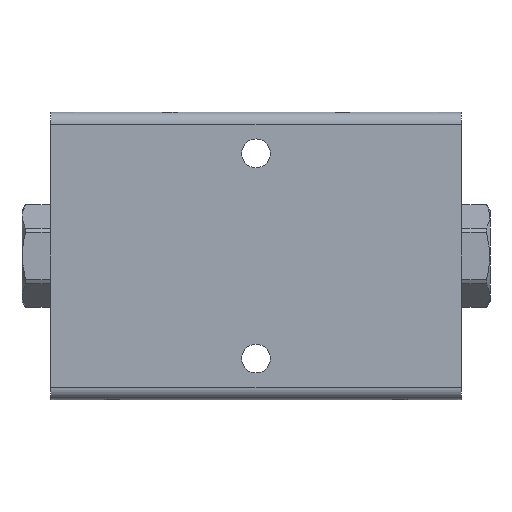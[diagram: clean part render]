
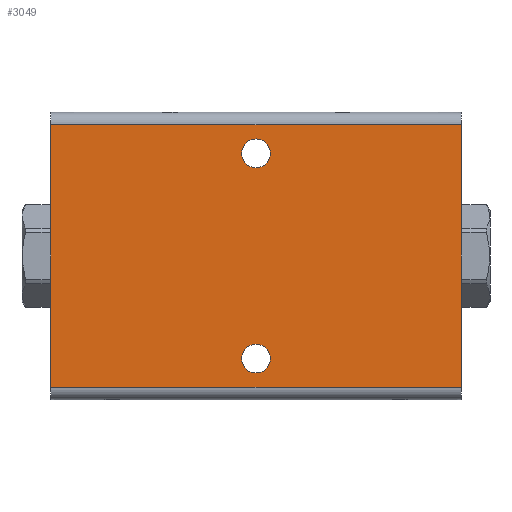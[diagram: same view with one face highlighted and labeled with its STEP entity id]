
A CAD part, front view. The second image highlights one B-rep face of the part: STEP entity #3049.
In plain terms, the highlighted planar face has unit normal (0, -1, 0).
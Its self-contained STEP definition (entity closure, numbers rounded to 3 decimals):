
#38 = EDGE_CURVE ( 'NONE', #566, #773, #1972, .T. ) ;
#83 = DIRECTION ( 'NONE',  ( 0., 0., -1. ) ) ;
#121 = ORIENTED_EDGE ( 'NONE', *, *, #948, .T. ) ;
#123 = ORIENTED_EDGE ( 'NONE', *, *, #2149, .T. ) ;
#128 = ORIENTED_EDGE ( 'NONE', *, *, #38, .T. ) ;
#168 = VECTOR ( 'NONE', #492, 1000. ) ;
#190 = AXIS2_PLACEMENT_3D ( 'NONE', #1832, #2601, #2333 ) ;
#256 = DIRECTION ( 'NONE',  ( 0., 0., 1. ) ) ;
#262 = CIRCLE ( 'NONE', #1763, 3.5 ) ;
#301 = DIRECTION ( 'NONE',  ( 0., 1., 0. ) ) ;
#361 = EDGE_LOOP ( 'NONE', ( #896, #121 ) ) ;
#404 = DIRECTION ( 'NONE',  ( 0., 0., 1. ) ) ;
#438 = AXIS2_PLACEMENT_3D ( 'NONE', #3026, #1981, #3234 ) ;
#485 = ORIENTED_EDGE ( 'NONE', *, *, #906, .T. ) ;
#492 = DIRECTION ( 'NONE',  ( 1., 0., 0. ) ) ;
#556 = LINE ( 'NONE', #2588, #1403 ) ;
#566 = VERTEX_POINT ( 'NONE', #1345 ) ;
#607 = VERTEX_POINT ( 'NONE', #2645 ) ;
#773 = VERTEX_POINT ( 'NONE', #2178 ) ;
#896 = ORIENTED_EDGE ( 'NONE', *, *, #2411, .T. ) ;
#906 = EDGE_CURVE ( 'NONE', #773, #566, #2081, .T. ) ;
#948 = EDGE_CURVE ( 'NONE', #958, #1833, #262, .T. ) ;
#958 = VERTEX_POINT ( 'NONE', #1511 ) ;
#1101 = LINE ( 'NONE', #1888, #1414 ) ;
#1124 = DIRECTION ( 'NONE',  ( -1., 0., 0. ) ) ;
#1177 = ORIENTED_EDGE ( 'NONE', *, *, #1808, .T. ) ;
#1218 = DIRECTION ( 'NONE',  ( 0., 1., 0. ) ) ;
#1219 = ORIENTED_EDGE ( 'NONE', *, *, #2170, .F. ) ;
#1242 = CARTESIAN_POINT ( 'NONE',  ( 0., -17.5, 25. ) ) ;
#1345 = CARTESIAN_POINT ( 'NONE',  ( 0., -17.5, -28.5 ) ) ;
#1403 = VECTOR ( 'NONE', #83, 1000. ) ;
#1414 = VECTOR ( 'NONE', #1124, 1000. ) ;
#1424 = CARTESIAN_POINT ( 'NONE',  ( 0., -17.5, -25. ) ) ;
#1468 = EDGE_LOOP ( 'NONE', ( #485, #128 ) ) ;
#1486 = CARTESIAN_POINT ( 'NONE',  ( -50., -17.5, 32. ) ) ;
#1511 = CARTESIAN_POINT ( 'NONE',  ( 0., -17.5, 21.5 ) ) ;
#1641 = CARTESIAN_POINT ( 'NONE',  ( 50., -17.5, 32. ) ) ;
#1759 = LINE ( 'NONE', #2786, #168 ) ;
#1763 = AXIS2_PLACEMENT_3D ( 'NONE', #1242, #1218, #1960 ) ;
#1808 = EDGE_CURVE ( 'NONE', #1817, #2489, #1101, .T. ) ;
#1817 = VERTEX_POINT ( 'NONE', #1641 ) ;
#1818 = CARTESIAN_POINT ( 'NONE',  ( -50., -17.5, 35. ) ) ;
#1832 = CARTESIAN_POINT ( 'NONE',  ( 50., -17.5, -35. ) ) ;
#1833 = VERTEX_POINT ( 'NONE', #2401 ) ;
#1888 = CARTESIAN_POINT ( 'NONE',  ( -50., -17.5, 32. ) ) ;
#1960 = DIRECTION ( 'NONE',  ( 0., 0., 1. ) ) ;
#1972 = CIRCLE ( 'NONE', #2828, 3.5 ) ;
#1981 = DIRECTION ( 'NONE',  ( 0., 1., 0. ) ) ;
#2045 = DIRECTION ( 'NONE',  ( 0., 0., 1. ) ) ;
#2081 = CIRCLE ( 'NONE', #2504, 3.5 ) ;
#2082 = FACE_OUTER_BOUND ( 'NONE', #2802, .T. ) ;
#2149 = EDGE_CURVE ( 'NONE', #2862, #607, #1759, .T. ) ;
#2155 = VECTOR ( 'NONE', #256, 1000. ) ;
#2170 = EDGE_CURVE ( 'NONE', #1817, #607, #556, .T. ) ;
#2178 = CARTESIAN_POINT ( 'NONE',  ( 0., -17.5, -21.5 ) ) ;
#2311 = CARTESIAN_POINT ( 'NONE',  ( -50., -17.5, -32. ) ) ;
#2333 = DIRECTION ( 'NONE',  ( 0., 0., -1. ) ) ;
#2336 = LINE ( 'NONE', #1818, #2155 ) ;
#2401 = CARTESIAN_POINT ( 'NONE',  ( 0., -17.5, 28.5 ) ) ;
#2411 = EDGE_CURVE ( 'NONE', #1833, #958, #2700, .T. ) ;
#2489 = VERTEX_POINT ( 'NONE', #1486 ) ;
#2504 = AXIS2_PLACEMENT_3D ( 'NONE', #1424, #2719, #404 ) ;
#2527 = FACE_BOUND ( 'NONE', #1468, .T. ) ;
#2588 = CARTESIAN_POINT ( 'NONE',  ( 50., -17.5, 35. ) ) ;
#2593 = EDGE_CURVE ( 'NONE', #2862, #2489, #2336, .T. ) ;
#2601 = DIRECTION ( 'NONE',  ( 0., -1., 0. ) ) ;
#2645 = CARTESIAN_POINT ( 'NONE',  ( 50., -17.5, -32. ) ) ;
#2700 = CIRCLE ( 'NONE', #438, 3.5 ) ;
#2719 = DIRECTION ( 'NONE',  ( 0., 1., 0. ) ) ;
#2786 = CARTESIAN_POINT ( 'NONE',  ( 50., -17.5, -32. ) ) ;
#2802 = EDGE_LOOP ( 'NONE', ( #3272, #123, #1219, #1177 ) ) ;
#2828 = AXIS2_PLACEMENT_3D ( 'NONE', #3078, #301, #2045 ) ;
#2862 = VERTEX_POINT ( 'NONE', #2311 ) ;
#3026 = CARTESIAN_POINT ( 'NONE',  ( 0., -17.5, 25. ) ) ;
#3049 = ADVANCED_FACE ( 'NONE', ( #3076, #2527, #2082 ), #3097, .T. ) ;
#3076 = FACE_BOUND ( 'NONE', #361, .T. ) ;
#3078 = CARTESIAN_POINT ( 'NONE',  ( 0., -17.5, -25. ) ) ;
#3097 = PLANE ( 'NONE',  #190 ) ;
#3234 = DIRECTION ( 'NONE',  ( 0., 0., 1. ) ) ;
#3272 = ORIENTED_EDGE ( 'NONE', *, *, #2593, .F. ) ;
